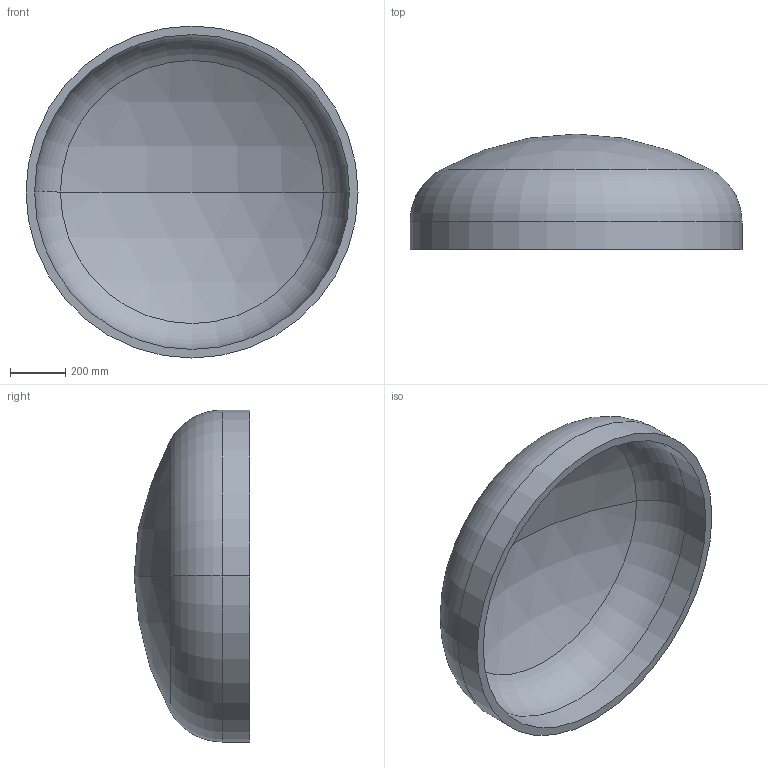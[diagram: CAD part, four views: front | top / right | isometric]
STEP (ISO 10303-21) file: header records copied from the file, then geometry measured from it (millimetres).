
FILE_DESCRIPTION (( 'STEP AP203' ), '1' );
FILE_NAME ('DIN 28013 Korbbogenform_-_Boden DIN 28013 - 1200 x 100 - I - s=31.step', '2016-07-01T09:25:56', ( '' ), ( '' ), 'SwSTEP 2.0', 'SolidWorks 2013', '' );
FILE_SCHEMA (( 'CONFIG_CONTROL_DESIGN' ));
Length unit declared in the file: millimetre
Products named in the file (1): DIN 28013 Korbbogenform_-_Boden DIN 28013 - 1200 x 100 - I - s=31
Bounding box: 1200 x 417.82 x 1200 mm (x, y, z)
Volume: 58336095.7 mm3; surface area: 3879478.9 mm2
Topology: 1 solids, 1 shells, 13 faces, 24 edges, 14 vertices
Faces by surface type: torus 4, cylinder 4, sphere 4, plane 1
Entity records: 407 total; most frequent: DIRECTION 72, CARTESIAN_POINT 52, ORIENTED_EDGE 48, AXIS2_PLACEMENT_3D 34, EDGE_CURVE 24, CIRCLE 20, EDGE_LOOP 14, VERTEX_POINT 14
